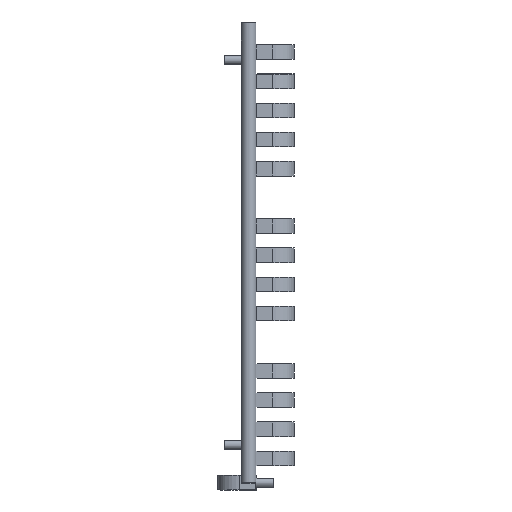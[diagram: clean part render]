
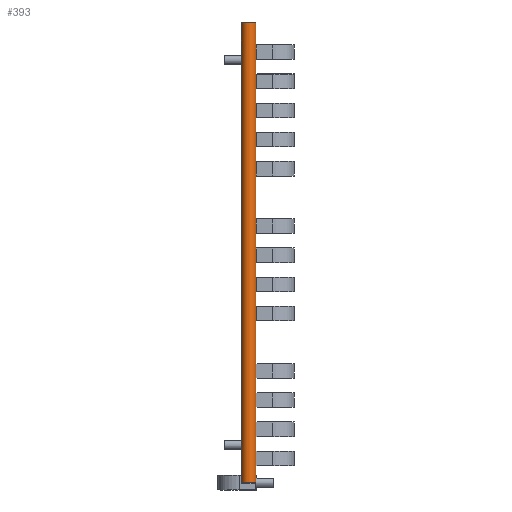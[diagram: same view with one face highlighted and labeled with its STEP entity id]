
A CAD part, left-side view. The second image highlights one B-rep face of the part: STEP entity #393.
In plain terms, the highlighted cylindrical face has radius 15 mm (diameter 30 mm), a partial arc.
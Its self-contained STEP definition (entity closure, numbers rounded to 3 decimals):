
#393 = ADVANCED_FACE( '', ( #697 ), #698, .T. );
#697 = FACE_OUTER_BOUND( '', #1092, .T. );
#698 = CYLINDRICAL_SURFACE( '', #1093, 15. );
#1092 = EDGE_LOOP( '', ( #1637, #1638, #1639, #1640 ) );
#1093 = AXIS2_PLACEMENT_3D( '', #1641, #1642, #1643 );
#1637 = ORIENTED_EDGE( '', *, *, #2874, .F. );
#1638 = ORIENTED_EDGE( '', *, *, #2813, .F. );
#1639 = ORIENTED_EDGE( '', *, *, #2875, .T. );
#1640 = ORIENTED_EDGE( '', *, *, #2750, .T. );
#1641 = CARTESIAN_POINT( '', ( 25., 15., 946. ) );
#1642 = DIRECTION( '', ( 0., 0., 1. ) );
#1643 = DIRECTION( '', ( -1., 0., 0. ) );
#2750 = EDGE_CURVE( '', #3186, #3183, #3187, .T. );
#2813 = EDGE_CURVE( '', #3308, #3304, #3310, .T. );
#2874 = EDGE_CURVE( '', #3304, #3183, #3426, .T. );
#2875 = EDGE_CURVE( '', #3308, #3186, #3427, .T. );
#3183 = VERTEX_POINT( '', #3823 );
#3186 = VERTEX_POINT( '', #3827 );
#3187 = LINE( '', #3828, #3829 );
#3304 = VERTEX_POINT( '', #4005 );
#3308 = VERTEX_POINT( '', #4011 );
#3310 = LINE( '', #4014, #4015 );
#3426 = CIRCLE( '', #4190, 15. );
#3427 = CIRCLE( '', #4191, 15. );
#3823 = CARTESIAN_POINT( '', ( 25., 0., 0. ) );
#3827 = CARTESIAN_POINT( '', ( 25., 0., 946. ) );
#3828 = CARTESIAN_POINT( '', ( 25., 0., 946. ) );
#3829 = VECTOR( '', #4826, 1000. );
#4005 = CARTESIAN_POINT( '', ( 25., 30., 0. ) );
#4011 = CARTESIAN_POINT( '', ( 25., 30., 946. ) );
#4014 = CARTESIAN_POINT( '', ( 25., 30., 946. ) );
#4015 = VECTOR( '', #4889, 1000. );
#4190 = AXIS2_PLACEMENT_3D( '', #4952, #4953, #4954 );
#4191 = AXIS2_PLACEMENT_3D( '', #4955, #4956, #4957 );
#4826 = DIRECTION( '', ( 0., 0., -1. ) );
#4889 = DIRECTION( '', ( 0., 0., -1. ) );
#4952 = CARTESIAN_POINT( '', ( 25., 15., 0. ) );
#4953 = DIRECTION( '', ( 0., 0., -1. ) );
#4954 = DIRECTION( '', ( -1., 0., 0. ) );
#4955 = CARTESIAN_POINT( '', ( 25., 15., 946. ) );
#4956 = DIRECTION( '', ( 0., 0., -1. ) );
#4957 = DIRECTION( '', ( -1., 0., 0. ) );
